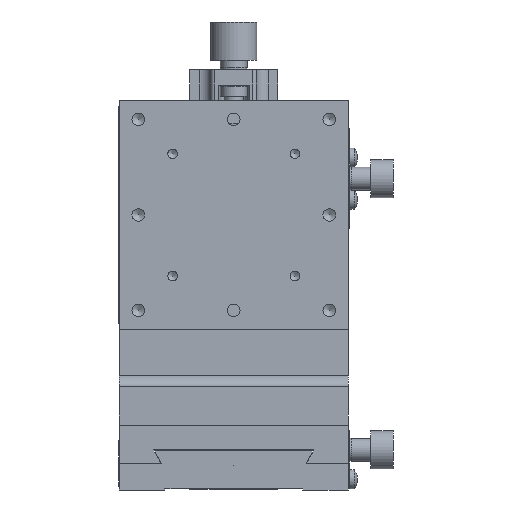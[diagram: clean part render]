
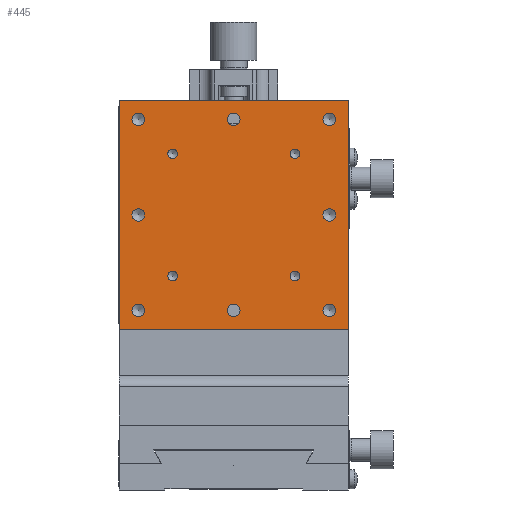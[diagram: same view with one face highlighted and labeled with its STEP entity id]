
A CAD part, front view. The second image highlights one B-rep face of the part: STEP entity #445.
In plain terms, the highlighted planar face has unit normal (0, -1, 0).
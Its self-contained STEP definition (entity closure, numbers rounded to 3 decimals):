
#445 = ADVANCED_FACE( '', ( #1087, #1088, #1089, #1090, #1091, #1092, #1093, #1094, #1095, #1096, #1097, #1098, #1099 ), #1100, .T. );
#1087 = FACE_BOUND( '', #2037, .T. );
#1088 = FACE_BOUND( '', #2038, .T. );
#1089 = FACE_BOUND( '', #2039, .T. );
#1090 = FACE_BOUND( '', #2040, .T. );
#1091 = FACE_BOUND( '', #2041, .T. );
#1092 = FACE_BOUND( '', #2042, .T. );
#1093 = FACE_BOUND( '', #2043, .T. );
#1094 = FACE_BOUND( '', #2044, .T. );
#1095 = FACE_BOUND( '', #2045, .T. );
#1096 = FACE_BOUND( '', #2046, .T. );
#1097 = FACE_BOUND( '', #2047, .T. );
#1098 = FACE_BOUND( '', #2048, .T. );
#1099 = FACE_OUTER_BOUND( '', #2049, .T. );
#1100 = PLANE( '', #2050 );
#2037 = EDGE_LOOP( '', ( #3803 ) );
#2038 = EDGE_LOOP( '', ( #3804 ) );
#2039 = EDGE_LOOP( '', ( #3805 ) );
#2040 = EDGE_LOOP( '', ( #3806 ) );
#2041 = EDGE_LOOP( '', ( #3807 ) );
#2042 = EDGE_LOOP( '', ( #3808 ) );
#2043 = EDGE_LOOP( '', ( #3809 ) );
#2044 = EDGE_LOOP( '', ( #3810 ) );
#2045 = EDGE_LOOP( '', ( #3811 ) );
#2046 = EDGE_LOOP( '', ( #3812 ) );
#2047 = EDGE_LOOP( '', ( #3813 ) );
#2048 = EDGE_LOOP( '', ( #3814 ) );
#2049 = EDGE_LOOP( '', ( #3815, #3816, #3817, #3818 ) );
#2050 = AXIS2_PLACEMENT_3D( '', #3819, #3820, #3821 );
#3803 = ORIENTED_EDGE( '', *, *, #5566, .T. );
#3804 = ORIENTED_EDGE( '', *, *, #5567, .T. );
#3805 = ORIENTED_EDGE( '', *, *, #5568, .T. );
#3806 = ORIENTED_EDGE( '', *, *, #5569, .T. );
#3807 = ORIENTED_EDGE( '', *, *, #5570, .T. );
#3808 = ORIENTED_EDGE( '', *, *, #5571, .T. );
#3809 = ORIENTED_EDGE( '', *, *, #5572, .T. );
#3810 = ORIENTED_EDGE( '', *, *, #5573, .T. );
#3811 = ORIENTED_EDGE( '', *, *, #5574, .T. );
#3812 = ORIENTED_EDGE( '', *, *, #5575, .T. );
#3813 = ORIENTED_EDGE( '', *, *, #5576, .T. );
#3814 = ORIENTED_EDGE( '', *, *, #5577, .T. );
#3815 = ORIENTED_EDGE( '', *, *, #5578, .F. );
#3816 = ORIENTED_EDGE( '', *, *, #5564, .F. );
#3817 = ORIENTED_EDGE( '', *, *, #5579, .F. );
#3818 = ORIENTED_EDGE( '', *, *, #5580, .F. );
#3819 = CARTESIAN_POINT( '', ( 0., -7., 72. ) );
#3820 = DIRECTION( '', ( 0., -1., 0. ) );
#3821 = DIRECTION( '', ( -1., 0., 0. ) );
#5564 = EDGE_CURVE( '', #6632, #6634, #6635, .T. );
#5566 = EDGE_CURVE( '', #6637, #6637, #6638, .T. );
#5567 = EDGE_CURVE( '', #6639, #6639, #6640, .T. );
#5568 = EDGE_CURVE( '', #6641, #6641, #6642, .T. );
#5569 = EDGE_CURVE( '', #6643, #6643, #6644, .T. );
#5570 = EDGE_CURVE( '', #6645, #6645, #6646, .T. );
#5571 = EDGE_CURVE( '', #6647, #6647, #6648, .T. );
#5572 = EDGE_CURVE( '', #6649, #6649, #6650, .T. );
#5573 = EDGE_CURVE( '', #6651, #6651, #6652, .T. );
#5574 = EDGE_CURVE( '', #6653, #6653, #6654, .T. );
#5575 = EDGE_CURVE( '', #6655, #6655, #6656, .T. );
#5576 = EDGE_CURVE( '', #6657, #6657, #6658, .T. );
#5577 = EDGE_CURVE( '', #6659, #6659, #6660, .T. );
#5578 = EDGE_CURVE( '', #6634, #6661, #6662, .T. );
#5579 = EDGE_CURVE( '', #6663, #6632, #6664, .T. );
#5580 = EDGE_CURVE( '', #6661, #6663, #6665, .T. );
#6632 = VERTEX_POINT( '', #8414 );
#6634 = VERTEX_POINT( '', #8417 );
#6635 = LINE( '', #8418, #8419 );
#6637 = VERTEX_POINT( '', #8422 );
#6638 = CIRCLE( '', #8423, 1.65 );
#6639 = VERTEX_POINT( '', #8424 );
#6640 = CIRCLE( '', #8425, 1.65 );
#6641 = VERTEX_POINT( '', #8426 );
#6642 = CIRCLE( '', #8427, 1.65 );
#6643 = VERTEX_POINT( '', #8428 );
#6644 = CIRCLE( '', #8429, 1.65 );
#6645 = VERTEX_POINT( '', #8430 );
#6646 = CIRCLE( '', #8431, 1.65 );
#6647 = VERTEX_POINT( '', #8432 );
#6648 = CIRCLE( '', #8433, 1.65 );
#6649 = VERTEX_POINT( '', #8434 );
#6650 = CIRCLE( '', #8435, 1.65 );
#6651 = VERTEX_POINT( '', #8436 );
#6652 = CIRCLE( '', #8437, 1.65 );
#6653 = VERTEX_POINT( '', #8438 );
#6654 = CIRCLE( '', #8439, 1.25 );
#6655 = VERTEX_POINT( '', #8440 );
#6656 = CIRCLE( '', #8441, 1.25 );
#6657 = VERTEX_POINT( '', #8442 );
#6658 = CIRCLE( '', #8443, 1.25 );
#6659 = VERTEX_POINT( '', #8444 );
#6660 = CIRCLE( '', #8445, 1.25 );
#6661 = VERTEX_POINT( '', #8446 );
#6662 = LINE( '', #8447, #8448 );
#6663 = VERTEX_POINT( '', #8449 );
#6664 = LINE( '', #8450, #8451 );
#6665 = LINE( '', #8452, #8453 );
#8414 = CARTESIAN_POINT( '', ( -30., -7., 42. ) );
#8417 = CARTESIAN_POINT( '', ( -30., -7., 102. ) );
#8418 = CARTESIAN_POINT( '', ( -30., -7., 72. ) );
#8419 = VECTOR( '', #10197, 1000. );
#8422 = CARTESIAN_POINT( '', ( 23.35, -7., 72. ) );
#8423 = AXIS2_PLACEMENT_3D( '', #10199, #10200, #10201 );
#8424 = CARTESIAN_POINT( '', ( 23.35, -7., 47. ) );
#8425 = AXIS2_PLACEMENT_3D( '', #10202, #10203, #10204 );
#8426 = CARTESIAN_POINT( '', ( -1.65, -7., 47. ) );
#8427 = AXIS2_PLACEMENT_3D( '', #10205, #10206, #10207 );
#8428 = CARTESIAN_POINT( '', ( -26.65, -7., 47. ) );
#8429 = AXIS2_PLACEMENT_3D( '', #10208, #10209, #10210 );
#8430 = CARTESIAN_POINT( '', ( -26.65, -7., 72. ) );
#8431 = AXIS2_PLACEMENT_3D( '', #10211, #10212, #10213 );
#8432 = CARTESIAN_POINT( '', ( -26.65, -7., 97. ) );
#8433 = AXIS2_PLACEMENT_3D( '', #10214, #10215, #10216 );
#8434 = CARTESIAN_POINT( '', ( -1.65, -7., 97. ) );
#8435 = AXIS2_PLACEMENT_3D( '', #10217, #10218, #10219 );
#8436 = CARTESIAN_POINT( '', ( 23.35, -7., 97. ) );
#8437 = AXIS2_PLACEMENT_3D( '', #10220, #10221, #10222 );
#8438 = CARTESIAN_POINT( '', ( 14.75, -7., 56. ) );
#8439 = AXIS2_PLACEMENT_3D( '', #10223, #10224, #10225 );
#8440 = CARTESIAN_POINT( '', ( -17.25, -7., 56. ) );
#8441 = AXIS2_PLACEMENT_3D( '', #10226, #10227, #10228 );
#8442 = CARTESIAN_POINT( '', ( -17.25, -7., 88. ) );
#8443 = AXIS2_PLACEMENT_3D( '', #10229, #10230, #10231 );
#8444 = CARTESIAN_POINT( '', ( 14.75, -7., 88. ) );
#8445 = AXIS2_PLACEMENT_3D( '', #10232, #10233, #10234 );
#8446 = CARTESIAN_POINT( '', ( 30., -7., 102. ) );
#8447 = CARTESIAN_POINT( '', ( 0., -7., 102. ) );
#8448 = VECTOR( '', #10235, 1000. );
#8449 = CARTESIAN_POINT( '', ( 30., -7., 42. ) );
#8450 = CARTESIAN_POINT( '', ( 0., -7., 42. ) );
#8451 = VECTOR( '', #10236, 1000. );
#8452 = CARTESIAN_POINT( '', ( 30., -7., 72. ) );
#8453 = VECTOR( '', #10237, 1000. );
#10197 = DIRECTION( '', ( 0., 0., 1. ) );
#10199 = CARTESIAN_POINT( '', ( 25., -7., 72. ) );
#10200 = DIRECTION( '', ( 0., 1., 0. ) );
#10201 = DIRECTION( '', ( -1., 0., 0. ) );
#10202 = CARTESIAN_POINT( '', ( 25., -7., 47. ) );
#10203 = DIRECTION( '', ( 0., 1., 0. ) );
#10204 = DIRECTION( '', ( -1., 0., 0. ) );
#10205 = CARTESIAN_POINT( '', ( 0., -7., 47. ) );
#10206 = DIRECTION( '', ( 0., 1., 0. ) );
#10207 = DIRECTION( '', ( -1., 0., 0. ) );
#10208 = CARTESIAN_POINT( '', ( -25., -7., 47. ) );
#10209 = DIRECTION( '', ( 0., 1., 0. ) );
#10210 = DIRECTION( '', ( -1., 0., 0. ) );
#10211 = CARTESIAN_POINT( '', ( -25., -7., 72. ) );
#10212 = DIRECTION( '', ( 0., 1., 0. ) );
#10213 = DIRECTION( '', ( -1., 0., 0. ) );
#10214 = CARTESIAN_POINT( '', ( -25., -7., 97. ) );
#10215 = DIRECTION( '', ( 0., 1., 0. ) );
#10216 = DIRECTION( '', ( -1., 0., 0. ) );
#10217 = CARTESIAN_POINT( '', ( 0., -7., 97. ) );
#10218 = DIRECTION( '', ( 0., 1., 0. ) );
#10219 = DIRECTION( '', ( -1., 0., 0. ) );
#10220 = CARTESIAN_POINT( '', ( 25., -7., 97. ) );
#10221 = DIRECTION( '', ( 0., 1., 0. ) );
#10222 = DIRECTION( '', ( -1., 0., 0. ) );
#10223 = CARTESIAN_POINT( '', ( 16., -7., 56. ) );
#10224 = DIRECTION( '', ( 0., 1., 0. ) );
#10225 = DIRECTION( '', ( -1., 0., 0. ) );
#10226 = CARTESIAN_POINT( '', ( -16., -7., 56. ) );
#10227 = DIRECTION( '', ( 0., 1., 0. ) );
#10228 = DIRECTION( '', ( -1., 0., 0. ) );
#10229 = CARTESIAN_POINT( '', ( -16., -7., 88. ) );
#10230 = DIRECTION( '', ( 0., 1., 0. ) );
#10231 = DIRECTION( '', ( -1., 0., 0. ) );
#10232 = CARTESIAN_POINT( '', ( 16., -7., 88. ) );
#10233 = DIRECTION( '', ( 0., 1., 0. ) );
#10234 = DIRECTION( '', ( -1., 0., 0. ) );
#10235 = DIRECTION( '', ( 1., 0., 0. ) );
#10236 = DIRECTION( '', ( -1., 0., 0. ) );
#10237 = DIRECTION( '', ( 0., 0., -1. ) );
